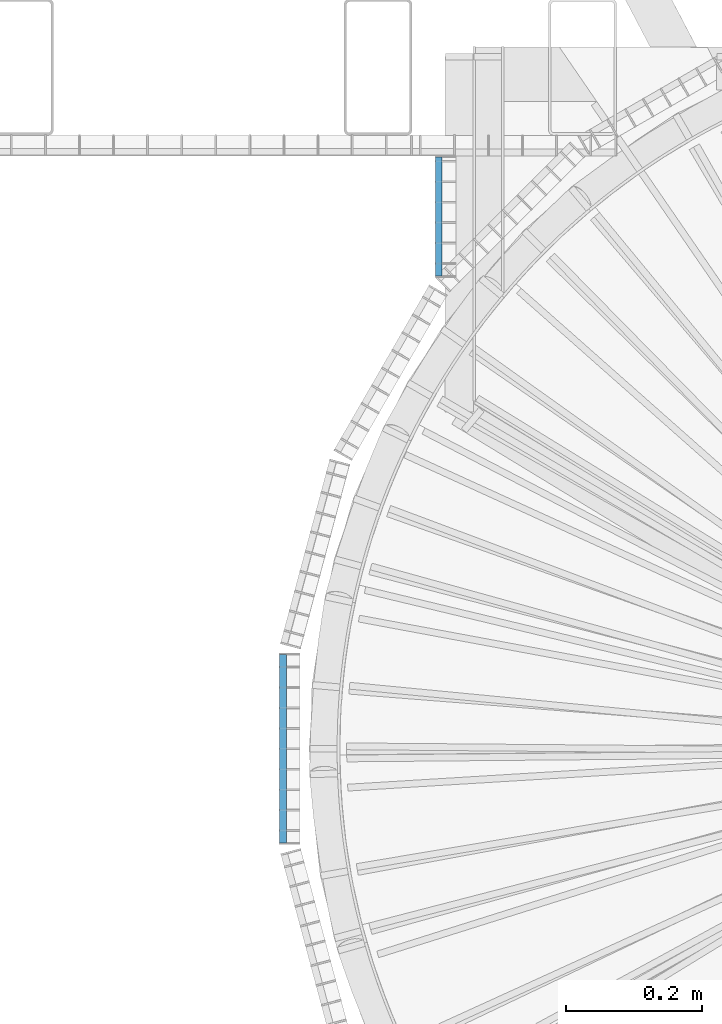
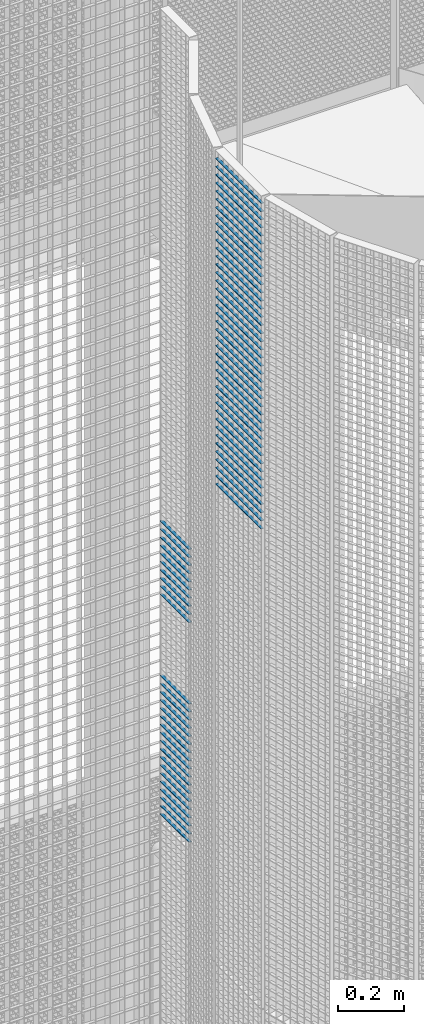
# One storey, part 182 of 1148: 69 beams, 2 elements without a shape of their own.
"""IFC2X3 building model written with IfcOpenShell, lengths in millimetres."""

from ifc_helpers import new_model, si_unit, frame, origin_with_axes, origin_2d_with_axis, place, context, subcontext, project, spatial, rectangle, extrude, material, type_object, element, aggregate, save


model = new_model("IFC2X3")

# Units and contexts
model_context = context("Model", 3, precision=1e-05, world=origin_with_axes())
body_context = subcontext(model_context, "Body", "Model", "MODEL_VIEW")
ifc_project = project(units=[si_unit("LENGTHUNIT", "METRE", prefix="MILLI"), si_unit("AREAUNIT", "SQUARE_METRE"), si_unit("VOLUMEUNIT", "CUBIC_METRE"), si_unit("MASSUNIT", "GRAM", prefix="KILO"), si_unit("TIMEUNIT", "SECOND"), si_unit("PLANEANGLEUNIT", "RADIAN"), si_unit("SOLIDANGLEUNIT", "STERADIAN"), si_unit("THERMODYNAMICTEMPERATUREUNIT", "DEGREE_CELSIUS"), si_unit("LUMINOUSINTENSITYUNIT", "LUMEN")], contexts=[model_context])

# Site, building, storey
site_placement = place(None, origin_with_axes())
site = spatial("IfcSite", under=ifc_project, at=site_placement, Name="Undefined", CompositionType="ELEMENT")
building_placement = place(site_placement, origin_with_axes())
building = spatial("IfcBuilding", under=site, at=building_placement, Name="Undefined", CompositionType="ELEMENT")
storey_placement = place(building_placement, origin_with_axes())
storey = spatial("IfcBuildingStorey", under=building, at=storey_placement, Name="Undefined", CompositionType="ELEMENT", Elevation=0.0)

# Assembly, beams
assembly_1_placement = place(storey_placement, origin_with_axes())
assembly_1 = element("IfcElementAssembly", 1, at=assembly_1_placement, inside=storey, Name="BORDURE", AssemblyPlace="NOTDEFINED", PredefinedType="NOTDEFINED")
ifc_material = material(Name="STEEL/S235JR")
beam_type = type_object("IfcBeamType", Name="PL2*10", PredefinedType="NOTDEFINED")
beam_1_placement = place(assembly_1_placement, frame((-884.882567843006, 867.997017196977, 15540.0), z_axis=(-1.0, 0.0, 0.0), x_axis=(0.0, -1.0, 0.0)))
beam_1 = element("IfcBeam", 2, at=beam_1_placement, type_object=beam_type, material=ifc_material, Name="ENTRETOISE", context=body_context, shape_type="SweptSolid", body=[
    extrude(rectangle(XDim=2.0, YDim=10.0, at=origin_2d_with_axis()), frame((174.109999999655, 0.0, 0.0), z_axis=(-1.0, 0.0, 0.0), x_axis=(0.0, -1.0, 0.0)), (0.0, 0.0, 1.0), 174.11),
])
beam_2_placement = place(assembly_1_placement, frame((-884.882567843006, 867.997017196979, 15840.0), z_axis=(-1.0, 0.0, 0.0), x_axis=(0.0, -1.0, 0.0)))
beam_2 = element("IfcBeam", 3, at=beam_2_placement, type_object=beam_type, material=ifc_material, Name="ENTRETOISE", context=body_context, shape_type="SweptSolid", body=[
    extrude(rectangle(XDim=2.0, YDim=10.0, at=origin_2d_with_axis()), frame((174.109999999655, 0.0, 0.0), z_axis=(-1.0, 0.0, 0.0), x_axis=(0.0, -1.0, 0.0)), (0.0, 0.0, 1.0), 174.11),
])
beam_3_placement = place(assembly_1_placement, frame((-884.882567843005, 867.997017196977, 15510.0), z_axis=(-1.0, 0.0, 0.0), x_axis=(0.0, -1.0, 0.0)))
beam_3 = element("IfcBeam", 4, at=beam_3_placement, type_object=beam_type, material=ifc_material, Name="ENTRETOISE", context=body_context, shape_type="SweptSolid", body=[
    extrude(rectangle(XDim=2.0, YDim=10.0, at=origin_2d_with_axis()), frame((174.109999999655, 0.0, 0.0), z_axis=(-1.0, 0.0, 0.0), x_axis=(0.0, -1.0, 0.0)), (0.0, 0.0, 1.0), 174.11),
])
beam_4_placement = place(assembly_1_placement, frame((-884.882567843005, 867.997017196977, 15480.0), z_axis=(-1.0, 0.0, 0.0), x_axis=(0.0, -1.0, 0.0)))
beam_4 = element("IfcBeam", 5, at=beam_4_placement, type_object=beam_type, material=ifc_material, Name="ENTRETOISE", context=body_context, shape_type="SweptSolid", body=[
    extrude(rectangle(XDim=2.0, YDim=10.0, at=origin_2d_with_axis()), frame((174.109999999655, 0.0, 0.0), z_axis=(-1.0, 0.0, 0.0), x_axis=(0.0, -1.0, 0.0)), (0.0, 0.0, 1.0), 174.11),
])
beam_5_placement = place(assembly_1_placement, frame((-884.882567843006, 867.997017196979, 15870.0), z_axis=(-1.0, 0.0, 0.0), x_axis=(0.0, -1.0, 0.0)))
beam_5 = element("IfcBeam", 6, at=beam_5_placement, type_object=beam_type, material=ifc_material, Name="ENTRETOISE", context=body_context, shape_type="SweptSolid", body=[
    extrude(rectangle(XDim=2.0, YDim=10.0, at=origin_2d_with_axis()), frame((174.109999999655, 0.0, 0.0), z_axis=(-1.0, 0.0, 0.0), x_axis=(0.0, -1.0, 0.0)), (0.0, 0.0, 1.0), 174.11),
])
beam_6_placement = place(assembly_1_placement, frame((-884.882567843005, 867.997017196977, 15450.0), z_axis=(-1.0, 0.0, 0.0), x_axis=(0.0, -1.0, 0.0)))
beam_6 = element("IfcBeam", 7, at=beam_6_placement, type_object=beam_type, material=ifc_material, Name="ENTRETOISE", context=body_context, shape_type="SweptSolid", body=[
    extrude(rectangle(XDim=2.0, YDim=10.0, at=origin_2d_with_axis()), frame((174.109999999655, 0.0, 0.0), z_axis=(-1.0, 0.0, 0.0), x_axis=(0.0, -1.0, 0.0)), (0.0, 0.0, 1.0), 174.11),
])
beam_7_placement = place(assembly_1_placement, frame((-884.882567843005, 867.997017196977, 15420.0), z_axis=(-1.0, 0.0, 0.0), x_axis=(0.0, -1.0, 0.0)))
beam_7 = element("IfcBeam", 8, at=beam_7_placement, type_object=beam_type, material=ifc_material, Name="ENTRETOISE", context=body_context, shape_type="SweptSolid", body=[
    extrude(rectangle(XDim=2.0, YDim=10.0, at=origin_2d_with_axis()), frame((174.109999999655, 0.0, 0.0), z_axis=(-1.0, 0.0, 0.0), x_axis=(0.0, -1.0, 0.0)), (0.0, 0.0, 1.0), 174.11),
])
beam_8_placement = place(assembly_1_placement, frame((-884.882567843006, 867.997017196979, 15900.0), z_axis=(-1.0, 0.0, 0.0), x_axis=(0.0, -1.0, 0.0)))
beam_8 = element("IfcBeam", 9, at=beam_8_placement, type_object=beam_type, material=ifc_material, Name="ENTRETOISE", context=body_context, shape_type="SweptSolid", body=[
    extrude(rectangle(XDim=2.0, YDim=10.0, at=origin_2d_with_axis()), frame((174.109999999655, 0.0, 0.0), z_axis=(-1.0, 0.0, 0.0), x_axis=(0.0, -1.0, 0.0)), (0.0, 0.0, 1.0), 174.11),
])
beam_9_placement = place(assembly_1_placement, frame((-884.882567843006, 867.997017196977, 15390.0), z_axis=(-1.0, 0.0, 0.0), x_axis=(0.0, -1.0, 0.0)))
beam_9 = element("IfcBeam", 10, at=beam_9_placement, type_object=beam_type, material=ifc_material, Name="ENTRETOISE", context=body_context, shape_type="SweptSolid", body=[
    extrude(rectangle(XDim=2.0, YDim=10.0, at=origin_2d_with_axis()), frame((174.109999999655, 0.0, 0.0), z_axis=(-1.0, 0.0, 0.0), x_axis=(0.0, -1.0, 0.0)), (0.0, 0.0, 1.0), 174.11),
])
beam_10_placement = place(assembly_1_placement, frame((-884.882567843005, 867.997017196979, 15930.0), z_axis=(-1.0, 0.0, 0.0), x_axis=(0.0, -1.0, 0.0)))
beam_10 = element("IfcBeam", 11, at=beam_10_placement, type_object=beam_type, material=ifc_material, Name="ENTRETOISE", context=body_context, shape_type="SweptSolid", body=[
    extrude(rectangle(XDim=2.0, YDim=10.0, at=origin_2d_with_axis()), frame((174.109999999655, 0.0, 0.0), z_axis=(-1.0, 0.0, 0.0), x_axis=(0.0, -1.0, 0.0)), (0.0, 0.0, 1.0), 174.11),
])
beam_11_placement = place(assembly_1_placement, frame((-884.882567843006, 867.997017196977, 15360.0), z_axis=(-1.0, 0.0, 0.0), x_axis=(0.0, -1.0, 0.0)))
beam_11 = element("IfcBeam", 12, at=beam_11_placement, type_object=beam_type, material=ifc_material, Name="ENTRETOISE", context=body_context, shape_type="SweptSolid", body=[
    extrude(rectangle(XDim=2.0, YDim=10.0, at=origin_2d_with_axis()), frame((174.109999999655, 0.0, 0.0), z_axis=(-1.0, 0.0, 0.0), x_axis=(0.0, -1.0, 0.0)), (0.0, 0.0, 1.0), 174.11),
])
beam_12_placement = place(assembly_1_placement, frame((-884.882567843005, 867.997017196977, 15330.0), z_axis=(-1.0, 0.0, 0.0), x_axis=(0.0, -1.0, 0.0)))
beam_12 = element("IfcBeam", 13, at=beam_12_placement, type_object=beam_type, material=ifc_material, Name="ENTRETOISE", context=body_context, shape_type="SweptSolid", body=[
    extrude(rectangle(XDim=2.0, YDim=10.0, at=origin_2d_with_axis()), frame((174.109999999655, 0.0, 0.0), z_axis=(-1.0, 0.0, 0.0), x_axis=(0.0, -1.0, 0.0)), (0.0, 0.0, 1.0), 174.11),
])
beam_13_placement = place(assembly_1_placement, frame((-884.882567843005, 867.997017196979, 15960.0), z_axis=(-1.0, 0.0, 0.0), x_axis=(0.0, -1.0, 0.0)))
beam_13 = element("IfcBeam", 14, at=beam_13_placement, type_object=beam_type, material=ifc_material, Name="ENTRETOISE", context=body_context, shape_type="SweptSolid", body=[
    extrude(rectangle(XDim=2.0, YDim=10.0, at=origin_2d_with_axis()), frame((174.109999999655, 0.0, 0.0), z_axis=(-1.0, 0.0, 0.0), x_axis=(0.0, -1.0, 0.0)), (0.0, 0.0, 1.0), 174.11),
])
beam_14_placement = place(assembly_1_placement, frame((-884.882567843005, 867.997017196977, 15300.0), z_axis=(-1.0, 0.0, 0.0), x_axis=(0.0, -1.0, 0.0)))
beam_14 = element("IfcBeam", 15, at=beam_14_placement, type_object=beam_type, material=ifc_material, Name="ENTRETOISE", context=body_context, shape_type="SweptSolid", body=[
    extrude(rectangle(XDim=2.0, YDim=10.0, at=origin_2d_with_axis()), frame((174.109999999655, 0.0, 0.0), z_axis=(-1.0, 0.0, 0.0), x_axis=(0.0, -1.0, 0.0)), (0.0, 0.0, 1.0), 174.11),
])
beam_15_placement = place(assembly_1_placement, frame((-884.882567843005, 867.997017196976, 15270.0), z_axis=(-1.0, 0.0, 0.0), x_axis=(0.0, -1.0, 0.0)))
beam_15 = element("IfcBeam", 16, at=beam_15_placement, type_object=beam_type, material=ifc_material, Name="ENTRETOISE", context=body_context, shape_type="SweptSolid", body=[
    extrude(rectangle(XDim=2.0, YDim=10.0, at=origin_2d_with_axis()), frame((174.109999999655, 0.0, 0.0), z_axis=(-1.0, 0.0, 0.0), x_axis=(0.0, -1.0, 0.0)), (0.0, 0.0, 1.0), 174.11),
])
beam_16_placement = place(assembly_1_placement, frame((-884.882567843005, 867.997017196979, 15990.0), z_axis=(-1.0, 0.0, 0.0), x_axis=(0.0, -1.0, 0.0)))
beam_16 = element("IfcBeam", 17, at=beam_16_placement, type_object=beam_type, material=ifc_material, Name="ENTRETOISE", context=body_context, shape_type="SweptSolid", body=[
    extrude(rectangle(XDim=2.0, YDim=10.0, at=origin_2d_with_axis()), frame((174.109999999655, 0.0, 0.0), z_axis=(-1.0, 0.0, 0.0), x_axis=(0.0, -1.0, 0.0)), (0.0, 0.0, 1.0), 174.11),
])
beam_17_placement = place(assembly_1_placement, frame((-884.882567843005, 867.997017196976, 15240.0), z_axis=(-1.0, 0.0, 0.0), x_axis=(0.0, -1.0, 0.0)))
beam_17 = element("IfcBeam", 18, at=beam_17_placement, type_object=beam_type, material=ifc_material, Name="ENTRETOISE", context=body_context, shape_type="SweptSolid", body=[
    extrude(rectangle(XDim=2.0, YDim=10.0, at=origin_2d_with_axis()), frame((174.109999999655, 0.0, 0.0), z_axis=(-1.0, 0.0, 0.0), x_axis=(0.0, -1.0, 0.0)), (0.0, 0.0, 1.0), 174.11),
])
beam_18_placement = place(assembly_1_placement, frame((-884.882567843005, 867.997017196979, 16020.0), z_axis=(-1.0, 0.0, 0.0), x_axis=(0.0, -1.0, 0.0)))
beam_18 = element("IfcBeam", 19, at=beam_18_placement, type_object=beam_type, material=ifc_material, Name="ENTRETOISE", context=body_context, shape_type="SweptSolid", body=[
    extrude(rectangle(XDim=2.0, YDim=10.0, at=origin_2d_with_axis()), frame((174.109999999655, 0.0, 0.0), z_axis=(-1.0, 0.0, 0.0), x_axis=(0.0, -1.0, 0.0)), (0.0, 0.0, 1.0), 174.11),
])
beam_19_placement = place(assembly_1_placement, frame((-884.882567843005, 867.997017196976, 15210.0), z_axis=(-1.0, 0.0, 0.0), x_axis=(0.0, -1.0, 0.0)))
beam_19 = element("IfcBeam", 20, at=beam_19_placement, type_object=beam_type, material=ifc_material, Name="ENTRETOISE", context=body_context, shape_type="SweptSolid", body=[
    extrude(rectangle(XDim=2.0, YDim=10.0, at=origin_2d_with_axis()), frame((174.109999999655, 0.0, 0.0), z_axis=(-1.0, 0.0, 0.0), x_axis=(0.0, -1.0, 0.0)), (0.0, 0.0, 1.0), 174.11),
])
beam_20_placement = place(assembly_1_placement, frame((-884.882567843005, 867.997017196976, 15180.0), z_axis=(-1.0, 0.0, 0.0), x_axis=(0.0, -1.0, 0.0)))
beam_20 = element("IfcBeam", 21, at=beam_20_placement, type_object=beam_type, material=ifc_material, Name="ENTRETOISE", context=body_context, shape_type="SweptSolid", body=[
    extrude(rectangle(XDim=2.0, YDim=10.0, at=origin_2d_with_axis()), frame((174.109999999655, 0.0, 0.0), z_axis=(-1.0, 0.0, 0.0), x_axis=(0.0, -1.0, 0.0)), (0.0, 0.0, 1.0), 174.11),
])
beam_21_placement = place(assembly_1_placement, frame((-884.882567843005, 867.997017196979, 16050.0), z_axis=(-1.0, 0.0, 0.0), x_axis=(0.0, -1.0, 0.0)))
beam_21 = element("IfcBeam", 22, at=beam_21_placement, type_object=beam_type, material=ifc_material, Name="ENTRETOISE", context=body_context, shape_type="SweptSolid", body=[
    extrude(rectangle(XDim=2.0, YDim=10.0, at=origin_2d_with_axis()), frame((174.109999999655, 0.0, 0.0), z_axis=(-1.0, 0.0, 0.0), x_axis=(0.0, -1.0, 0.0)), (0.0, 0.0, 1.0), 174.11),
])
beam_22_placement = place(assembly_1_placement, frame((-884.882567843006, 867.997017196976, 15150.0), z_axis=(-1.0, 0.0, 0.0), x_axis=(0.0, -1.0, 0.0)))
beam_22 = element("IfcBeam", 23, at=beam_22_placement, type_object=beam_type, material=ifc_material, Name="ENTRETOISE", context=body_context, shape_type="SweptSolid", body=[
    extrude(rectangle(XDim=2.0, YDim=10.0, at=origin_2d_with_axis()), frame((174.109999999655, 0.0, 0.0), z_axis=(-1.0, 0.0, 0.0), x_axis=(0.0, -1.0, 0.0)), (0.0, 0.0, 1.0), 174.11),
])
beam_23_placement = place(assembly_1_placement, frame((-884.882567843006, 867.997017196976, 15120.0), z_axis=(-1.0, 0.0, 0.0), x_axis=(0.0, -1.0, 0.0)))
beam_23 = element("IfcBeam", 24, at=beam_23_placement, type_object=beam_type, material=ifc_material, Name="ENTRETOISE", context=body_context, shape_type="SweptSolid", body=[
    extrude(rectangle(XDim=2.0, YDim=10.0, at=origin_2d_with_axis()), frame((174.109999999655, 0.0, 0.0), z_axis=(-1.0, 0.0, 0.0), x_axis=(0.0, -1.0, 0.0)), (0.0, 0.0, 1.0), 174.11),
])
beam_24_placement = place(assembly_1_placement, frame((-884.882567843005, 867.997017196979, 16080.0), z_axis=(-1.0, 0.0, 0.0), x_axis=(0.0, -1.0, 0.0)))
beam_24 = element("IfcBeam", 25, at=beam_24_placement, type_object=beam_type, material=ifc_material, Name="ENTRETOISE", context=body_context, shape_type="SweptSolid", body=[
    extrude(rectangle(XDim=2.0, YDim=10.0, at=origin_2d_with_axis()), frame((174.109999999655, 0.0, 0.0), z_axis=(-1.0, 0.0, 0.0), x_axis=(0.0, -1.0, 0.0)), (0.0, 0.0, 1.0), 174.11),
])
beam_25_placement = place(assembly_1_placement, frame((-884.882567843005, 867.997017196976, 15090.0), z_axis=(-1.0, 0.0, 0.0), x_axis=(0.0, -1.0, 0.0)))
beam_25 = element("IfcBeam", 26, at=beam_25_placement, type_object=beam_type, material=ifc_material, Name="ENTRETOISE", context=body_context, shape_type="SweptSolid", body=[
    extrude(rectangle(XDim=2.0, YDim=10.0, at=origin_2d_with_axis()), frame((174.109999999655, 0.0, 0.0), z_axis=(-1.0, 0.0, 0.0), x_axis=(0.0, -1.0, 0.0)), (0.0, 0.0, 1.0), 174.11),
])
beam_26_placement = place(assembly_1_placement, frame((-884.882567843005, 867.997017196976, 15060.0), z_axis=(-1.0, 0.0, 0.0), x_axis=(0.0, -1.0, 0.0)))
beam_26 = element("IfcBeam", 27, at=beam_26_placement, type_object=beam_type, material=ifc_material, Name="ENTRETOISE", context=body_context, shape_type="SweptSolid", body=[
    extrude(rectangle(XDim=2.0, YDim=10.0, at=origin_2d_with_axis()), frame((174.109999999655, 0.0, 0.0), z_axis=(-1.0, 0.0, 0.0), x_axis=(0.0, -1.0, 0.0)), (0.0, 0.0, 1.0), 174.11),
])
beam_27_placement = place(assembly_1_placement, frame((-884.882567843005, 867.99701719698, 16110.0), z_axis=(-1.0, 0.0, 0.0), x_axis=(0.0, -1.0, 0.0)))
beam_27 = element("IfcBeam", 28, at=beam_27_placement, type_object=beam_type, material=ifc_material, Name="ENTRETOISE", context=body_context, shape_type="SweptSolid", body=[
    extrude(rectangle(XDim=2.0, YDim=10.0, at=origin_2d_with_axis()), frame((174.109999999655, 0.0, 0.0), z_axis=(-1.0, 0.0, 0.0), x_axis=(0.0, -1.0, 0.0)), (0.0, 0.0, 1.0), 174.11),
])
beam_28_placement = place(assembly_1_placement, frame((-884.882567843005, 867.997017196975, 15030.0), z_axis=(-1.0, 0.0, 0.0), x_axis=(0.0, -1.0, 0.0)))
beam_28 = element("IfcBeam", 29, at=beam_28_placement, type_object=beam_type, material=ifc_material, Name="ENTRETOISE", context=body_context, shape_type="SweptSolid", body=[
    extrude(rectangle(XDim=2.0, YDim=10.0, at=origin_2d_with_axis()), frame((174.109999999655, 0.0, 0.0), z_axis=(-1.0, 0.0, 0.0), x_axis=(0.0, -1.0, 0.0)), (0.0, 0.0, 1.0), 174.11),
])
aggregate(assembly_1, [beam_1, beam_2, beam_3, beam_4, beam_5, beam_6, beam_7, beam_8, beam_9, beam_10, beam_11, beam_12, beam_13, beam_14, beam_15, beam_16, beam_17, beam_18, beam_19, beam_20, beam_21, beam_22, beam_23, beam_24, beam_25, beam_26, beam_27, beam_28])

assembly_2_placement = place(storey_placement, origin_with_axes())
assembly_2 = element("IfcElementAssembly", 30, at=assembly_2_placement, inside=storey, Name="BORDURE", AssemblyPlace="NOTDEFINED", PredefinedType="NOTDEFINED")
beam_29_placement = place(assembly_2_placement, frame((-1113.47999999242, 137.996003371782, 17970.0), z_axis=(-1.0, 0.0, 0.0), x_axis=(0.0, -1.0, 0.0)))
beam_29 = element("IfcBeam", 31, at=beam_29_placement, type_object=beam_type, material=ifc_material, Name="ENTRETOISE", context=body_context, shape_type="SweptSolid", body=[
    extrude(rectangle(XDim=2.0, YDim=10.0, at=origin_2d_with_axis()), frame((275.999999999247, 9.09494701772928e-13, 1.53210777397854e-14), z_axis=(-1.0, 0.0, 0.0), x_axis=(0.0, -1.0, 0.0)), (0.0, 0.0, 1.0), 276.0),
])
beam_30_placement = place(assembly_2_placement, frame((-1113.47999999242, 137.996003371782, 17940.0), z_axis=(-1.0, 0.0, 0.0), x_axis=(0.0, -1.0, 0.0)))
beam_30 = element("IfcBeam", 32, at=beam_30_placement, type_object=beam_type, material=ifc_material, Name="ENTRETOISE", context=body_context, shape_type="SweptSolid", body=[
    extrude(rectangle(XDim=2.0, YDim=10.0, at=origin_2d_with_axis()), frame((275.999999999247, 9.09494701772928e-13, 1.53210777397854e-14), z_axis=(-1.0, 0.0, 0.0), x_axis=(0.0, -1.0, 0.0)), (0.0, 0.0, 1.0), 276.0),
])
beam_31_placement = place(assembly_2_placement, frame((-1113.47999999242, 137.996003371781, 17910.0), z_axis=(-1.0, 0.0, 0.0), x_axis=(0.0, -1.0, 0.0)))
beam_31 = element("IfcBeam", 33, at=beam_31_placement, type_object=beam_type, material=ifc_material, Name="ENTRETOISE", context=body_context, shape_type="SweptSolid", body=[
    extrude(rectangle(XDim=2.0, YDim=10.0, at=origin_2d_with_axis()), frame((275.999999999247, 9.09494701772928e-13, 1.53210777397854e-14), z_axis=(-1.0, 0.0, 0.0), x_axis=(0.0, -1.0, 0.0)), (0.0, 0.0, 1.0), 276.0),
])
beam_32_placement = place(assembly_2_placement, frame((-1113.47999999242, 137.996003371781, 17880.0), z_axis=(-1.0, 0.0, 0.0), x_axis=(0.0, -1.0, 0.0)))
beam_32 = element("IfcBeam", 34, at=beam_32_placement, type_object=beam_type, material=ifc_material, Name="ENTRETOISE", context=body_context, shape_type="SweptSolid", body=[
    extrude(rectangle(XDim=2.0, YDim=10.0, at=origin_2d_with_axis()), frame((275.999999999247, 9.09494701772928e-13, 1.53210777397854e-14), z_axis=(-1.0, 0.0, 0.0), x_axis=(0.0, -1.0, 0.0)), (0.0, 0.0, 1.0), 276.0),
])
beam_33_placement = place(assembly_2_placement, frame((-1113.47999999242, 137.996003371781, 17850.0), z_axis=(-1.0, 0.0, 0.0), x_axis=(0.0, -1.0, 0.0)))
beam_33 = element("IfcBeam", 35, at=beam_33_placement, type_object=beam_type, material=ifc_material, Name="ENTRETOISE", context=body_context, shape_type="SweptSolid", body=[
    extrude(rectangle(XDim=2.0, YDim=10.0, at=origin_2d_with_axis()), frame((275.999999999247, 9.09494701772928e-13, 1.53210777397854e-14), z_axis=(-1.0, 0.0, 0.0), x_axis=(0.0, -1.0, 0.0)), (0.0, 0.0, 1.0), 276.0),
])
beam_34_placement = place(assembly_2_placement, frame((-1113.47999999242, 137.996003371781, 17820.0), z_axis=(-1.0, 0.0, 0.0), x_axis=(0.0, -1.0, 0.0)))
beam_34 = element("IfcBeam", 36, at=beam_34_placement, type_object=beam_type, material=ifc_material, Name="ENTRETOISE", context=body_context, shape_type="SweptSolid", body=[
    extrude(rectangle(XDim=2.0, YDim=10.0, at=origin_2d_with_axis()), frame((275.999999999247, 9.09494701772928e-13, 1.53210777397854e-14), z_axis=(-1.0, 0.0, 0.0), x_axis=(0.0, -1.0, 0.0)), (0.0, 0.0, 1.0), 276.0),
])
beam_35_placement = place(assembly_2_placement, frame((-1113.47999999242, 137.996003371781, 17790.0), z_axis=(-1.0, 0.0, 0.0), x_axis=(0.0, -1.0, 0.0)))
beam_35 = element("IfcBeam", 37, at=beam_35_placement, type_object=beam_type, material=ifc_material, Name="ENTRETOISE", context=body_context, shape_type="SweptSolid", body=[
    extrude(rectangle(XDim=2.0, YDim=10.0, at=origin_2d_with_axis()), frame((275.999999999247, 9.09494701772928e-13, 1.53210777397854e-14), z_axis=(-1.0, 0.0, 0.0), x_axis=(0.0, -1.0, 0.0)), (0.0, 0.0, 1.0), 276.0),
])
beam_36_placement = place(assembly_2_placement, frame((-1113.47999999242, 137.996003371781, 17760.0), z_axis=(-1.0, 0.0, 0.0), x_axis=(0.0, -1.0, 0.0)))
beam_36 = element("IfcBeam", 38, at=beam_36_placement, type_object=beam_type, material=ifc_material, Name="ENTRETOISE", context=body_context, shape_type="SweptSolid", body=[
    extrude(rectangle(XDim=2.0, YDim=10.0, at=origin_2d_with_axis()), frame((275.999999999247, 9.09494701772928e-13, 1.53210777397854e-14), z_axis=(-1.0, 0.0, 0.0), x_axis=(0.0, -1.0, 0.0)), (0.0, 0.0, 1.0), 276.0),
])
beam_37_placement = place(assembly_2_placement, frame((-1113.47999999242, 137.996003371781, 17730.0), z_axis=(-1.0, 0.0, 0.0), x_axis=(0.0, -1.0, 0.0)))
beam_37 = element("IfcBeam", 39, at=beam_37_placement, type_object=beam_type, material=ifc_material, Name="ENTRETOISE", context=body_context, shape_type="SweptSolid", body=[
    extrude(rectangle(XDim=2.0, YDim=10.0, at=origin_2d_with_axis()), frame((275.999999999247, 9.09494701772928e-13, 1.53210777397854e-14), z_axis=(-1.0, 0.0, 0.0), x_axis=(0.0, -1.0, 0.0)), (0.0, 0.0, 1.0), 276.0),
])
beam_38_placement = place(assembly_2_placement, frame((-1113.47999999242, 137.996003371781, 17700.0), z_axis=(-1.0, 0.0, 0.0), x_axis=(0.0, -1.0, 0.0)))
beam_38 = element("IfcBeam", 40, at=beam_38_placement, type_object=beam_type, material=ifc_material, Name="ENTRETOISE", context=body_context, shape_type="SweptSolid", body=[
    extrude(rectangle(XDim=2.0, YDim=10.0, at=origin_2d_with_axis()), frame((275.999999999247, 9.09494701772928e-13, 1.53210777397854e-14), z_axis=(-1.0, 0.0, 0.0), x_axis=(0.0, -1.0, 0.0)), (0.0, 0.0, 1.0), 276.0),
])
beam_39_placement = place(assembly_2_placement, frame((-1113.47999999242, 137.996003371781, 17670.0), z_axis=(-1.0, 0.0, 0.0), x_axis=(0.0, -1.0, 0.0)))
beam_39 = element("IfcBeam", 41, at=beam_39_placement, type_object=beam_type, material=ifc_material, Name="ENTRETOISE", context=body_context, shape_type="SweptSolid", body=[
    extrude(rectangle(XDim=2.0, YDim=10.0, at=origin_2d_with_axis()), frame((275.999999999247, 9.09494701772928e-13, 1.53210777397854e-14), z_axis=(-1.0, 0.0, 0.0), x_axis=(0.0, -1.0, 0.0)), (0.0, 0.0, 1.0), 276.0),
])
beam_40_placement = place(assembly_2_placement, frame((-1113.47999999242, 137.99600337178, 17640.0), z_axis=(-1.0, 0.0, 0.0), x_axis=(0.0, -1.0, 0.0)))
beam_40 = element("IfcBeam", 42, at=beam_40_placement, type_object=beam_type, material=ifc_material, Name="ENTRETOISE", context=body_context, shape_type="SweptSolid", body=[
    extrude(rectangle(XDim=2.0, YDim=10.0, at=origin_2d_with_axis()), frame((275.999999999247, 9.09494701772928e-13, 1.53210777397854e-14), z_axis=(-1.0, 0.0, 0.0), x_axis=(0.0, -1.0, 0.0)), (0.0, 0.0, 1.0), 276.0),
])
beam_41_placement = place(assembly_2_placement, frame((-1113.47999999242, 137.99600337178, 17610.0), z_axis=(-1.0, 0.0, 0.0), x_axis=(0.0, -1.0, 0.0)))
beam_41 = element("IfcBeam", 43, at=beam_41_placement, type_object=beam_type, material=ifc_material, Name="ENTRETOISE", context=body_context, shape_type="SweptSolid", body=[
    extrude(rectangle(XDim=2.0, YDim=10.0, at=origin_2d_with_axis()), frame((275.999999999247, 9.09494701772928e-13, 1.53210777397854e-14), z_axis=(-1.0, 0.0, 0.0), x_axis=(0.0, -1.0, 0.0)), (0.0, 0.0, 1.0), 276.0),
])
beam_42_placement = place(assembly_2_placement, frame((-1113.47999999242, 137.99600337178, 17580.0), z_axis=(-1.0, 0.0, 0.0), x_axis=(0.0, -1.0, 0.0)))
beam_42 = element("IfcBeam", 44, at=beam_42_placement, type_object=beam_type, material=ifc_material, Name="ENTRETOISE", context=body_context, shape_type="SweptSolid", body=[
    extrude(rectangle(XDim=2.0, YDim=10.0, at=origin_2d_with_axis()), frame((275.999999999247, 9.09494701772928e-13, 1.53210777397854e-14), z_axis=(-1.0, 0.0, 0.0), x_axis=(0.0, -1.0, 0.0)), (0.0, 0.0, 1.0), 276.0),
])
beam_43_placement = place(assembly_2_placement, frame((-1113.47999999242, 137.99600337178, 17550.0), z_axis=(-1.0, 0.0, 0.0), x_axis=(0.0, -1.0, 0.0)))
beam_43 = element("IfcBeam", 45, at=beam_43_placement, type_object=beam_type, material=ifc_material, Name="ENTRETOISE", context=body_context, shape_type="SweptSolid", body=[
    extrude(rectangle(XDim=2.0, YDim=10.0, at=origin_2d_with_axis()), frame((275.999999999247, 9.09494701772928e-13, 1.53210777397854e-14), z_axis=(-1.0, 0.0, 0.0), x_axis=(0.0, -1.0, 0.0)), (0.0, 0.0, 1.0), 276.0),
])
beam_44_placement = place(assembly_2_placement, frame((-1113.47999999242, 137.99600337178, 17520.0), z_axis=(-1.0, 0.0, 0.0), x_axis=(0.0, -1.0, 0.0)))
beam_44 = element("IfcBeam", 46, at=beam_44_placement, type_object=beam_type, material=ifc_material, Name="ENTRETOISE", context=body_context, shape_type="SweptSolid", body=[
    extrude(rectangle(XDim=2.0, YDim=10.0, at=origin_2d_with_axis()), frame((275.999999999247, 9.09494701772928e-13, 1.53210777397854e-14), z_axis=(-1.0, 0.0, 0.0), x_axis=(0.0, -1.0, 0.0)), (0.0, 0.0, 1.0), 276.0),
])
beam_45_placement = place(assembly_2_placement, frame((-1113.47999999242, 137.99600337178, 17490.0), z_axis=(-1.0, 0.0, 0.0), x_axis=(0.0, -1.0, 0.0)))
beam_45 = element("IfcBeam", 47, at=beam_45_placement, type_object=beam_type, material=ifc_material, Name="ENTRETOISE", context=body_context, shape_type="SweptSolid", body=[
    extrude(rectangle(XDim=2.0, YDim=10.0, at=origin_2d_with_axis()), frame((275.999999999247, 9.09494701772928e-13, 1.53210777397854e-14), z_axis=(-1.0, 0.0, 0.0), x_axis=(0.0, -1.0, 0.0)), (0.0, 0.0, 1.0), 276.0),
])
beam_46_placement = place(assembly_2_placement, frame((-1113.47999999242, 137.99600337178, 17460.0), z_axis=(-1.0, 0.0, 0.0), x_axis=(0.0, -1.0, 0.0)))
beam_46 = element("IfcBeam", 48, at=beam_46_placement, type_object=beam_type, material=ifc_material, Name="ENTRETOISE", context=body_context, shape_type="SweptSolid", body=[
    extrude(rectangle(XDim=2.0, YDim=10.0, at=origin_2d_with_axis()), frame((275.999999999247, 9.09494701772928e-13, 1.53210777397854e-14), z_axis=(-1.0, 0.0, 0.0), x_axis=(0.0, -1.0, 0.0)), (0.0, 0.0, 1.0), 276.0),
])
beam_47_placement = place(assembly_2_placement, frame((-1113.47999999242, 137.99600337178, 17430.0), z_axis=(-1.0, 0.0, 0.0), x_axis=(0.0, -1.0, 0.0)))
beam_47 = element("IfcBeam", 49, at=beam_47_placement, type_object=beam_type, material=ifc_material, Name="ENTRETOISE", context=body_context, shape_type="SweptSolid", body=[
    extrude(rectangle(XDim=2.0, YDim=10.0, at=origin_2d_with_axis()), frame((275.999999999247, 9.09494701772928e-13, 1.53210777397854e-14), z_axis=(-1.0, 0.0, 0.0), x_axis=(0.0, -1.0, 0.0)), (0.0, 0.0, 1.0), 276.0),
])
beam_48_placement = place(assembly_2_placement, frame((-1113.47999999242, 137.99600337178, 17400.0), z_axis=(-1.0, 0.0, 0.0), x_axis=(0.0, -1.0, 0.0)))
beam_48 = element("IfcBeam", 50, at=beam_48_placement, type_object=beam_type, material=ifc_material, Name="ENTRETOISE", context=body_context, shape_type="SweptSolid", body=[
    extrude(rectangle(XDim=2.0, YDim=10.0, at=origin_2d_with_axis()), frame((275.999999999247, 9.09494701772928e-13, 1.53210777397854e-14), z_axis=(-1.0, 0.0, 0.0), x_axis=(0.0, -1.0, 0.0)), (0.0, 0.0, 1.0), 276.0),
])
beam_49_placement = place(assembly_2_placement, frame((-1113.47999999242, 137.996003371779, 17370.0), z_axis=(-1.0, 0.0, 0.0), x_axis=(0.0, -1.0, 0.0)))
beam_49 = element("IfcBeam", 51, at=beam_49_placement, type_object=beam_type, material=ifc_material, Name="ENTRETOISE", context=body_context, shape_type="SweptSolid", body=[
    extrude(rectangle(XDim=2.0, YDim=10.0, at=origin_2d_with_axis()), frame((275.999999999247, 9.09494701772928e-13, 1.53210777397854e-14), z_axis=(-1.0, 0.0, 0.0), x_axis=(0.0, -1.0, 0.0)), (0.0, 0.0, 1.0), 276.0),
])
beam_50_placement = place(assembly_2_placement, frame((-1113.47999999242, 137.996003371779, 17340.0), z_axis=(-1.0, 0.0, 0.0), x_axis=(0.0, -1.0, 0.0)))
beam_50 = element("IfcBeam", 52, at=beam_50_placement, type_object=beam_type, material=ifc_material, Name="ENTRETOISE", context=body_context, shape_type="SweptSolid", body=[
    extrude(rectangle(XDim=2.0, YDim=10.0, at=origin_2d_with_axis()), frame((275.999999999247, 9.09494701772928e-13, 1.53210777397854e-14), z_axis=(-1.0, 0.0, 0.0), x_axis=(0.0, -1.0, 0.0)), (0.0, 0.0, 1.0), 276.0),
])
beam_51_placement = place(assembly_2_placement, frame((-1113.47999999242, 137.996003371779, 17310.0), z_axis=(-1.0, 0.0, 0.0), x_axis=(0.0, -1.0, 0.0)))
beam_51 = element("IfcBeam", 53, at=beam_51_placement, type_object=beam_type, material=ifc_material, Name="ENTRETOISE", context=body_context, shape_type="SweptSolid", body=[
    extrude(rectangle(XDim=2.0, YDim=10.0, at=origin_2d_with_axis()), frame((275.999999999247, 9.09494701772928e-13, 1.53210777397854e-14), z_axis=(-1.0, 0.0, 0.0), x_axis=(0.0, -1.0, 0.0)), (0.0, 0.0, 1.0), 276.0),
])
beam_52_placement = place(assembly_2_placement, frame((-1113.47999999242, 137.996003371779, 17280.0), z_axis=(-1.0, 0.0, 0.0), x_axis=(0.0, -1.0, 0.0)))
beam_52 = element("IfcBeam", 54, at=beam_52_placement, type_object=beam_type, material=ifc_material, Name="ENTRETOISE", context=body_context, shape_type="SweptSolid", body=[
    extrude(rectangle(XDim=2.0, YDim=10.0, at=origin_2d_with_axis()), frame((275.999999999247, 9.09494701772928e-13, 1.53210777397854e-14), z_axis=(-1.0, 0.0, 0.0), x_axis=(0.0, -1.0, 0.0)), (0.0, 0.0, 1.0), 276.0),
])
beam_53_placement = place(assembly_2_placement, frame((-1113.47999999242, 137.996003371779, 17250.0), z_axis=(-1.0, 0.0, 0.0), x_axis=(0.0, -1.0, 0.0)))
beam_53 = element("IfcBeam", 55, at=beam_53_placement, type_object=beam_type, material=ifc_material, Name="ENTRETOISE", context=body_context, shape_type="SweptSolid", body=[
    extrude(rectangle(XDim=2.0, YDim=10.0, at=origin_2d_with_axis()), frame((275.999999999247, 9.09494701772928e-13, 1.53210777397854e-14), z_axis=(-1.0, 0.0, 0.0), x_axis=(0.0, -1.0, 0.0)), (0.0, 0.0, 1.0), 276.0),
])
beam_54_placement = place(assembly_2_placement, frame((-1113.47999999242, 137.996003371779, 17220.0), z_axis=(-1.0, 0.0, 0.0), x_axis=(0.0, -1.0, 0.0)))
beam_54 = element("IfcBeam", 56, at=beam_54_placement, type_object=beam_type, material=ifc_material, Name="ENTRETOISE", context=body_context, shape_type="SweptSolid", body=[
    extrude(rectangle(XDim=2.0, YDim=10.0, at=origin_2d_with_axis()), frame((275.999999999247, 9.09494701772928e-13, 1.53210777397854e-14), z_axis=(-1.0, 0.0, 0.0), x_axis=(0.0, -1.0, 0.0)), (0.0, 0.0, 1.0), 276.0),
])
beam_55_placement = place(assembly_2_placement, frame((-1113.47999999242, 137.996003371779, 17190.0), z_axis=(-1.0, 0.0, 0.0), x_axis=(0.0, -1.0, 0.0)))
beam_55 = element("IfcBeam", 57, at=beam_55_placement, type_object=beam_type, material=ifc_material, Name="ENTRETOISE", context=body_context, shape_type="SweptSolid", body=[
    extrude(rectangle(XDim=2.0, YDim=10.0, at=origin_2d_with_axis()), frame((275.999999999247, 9.09494701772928e-13, 1.53210777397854e-14), z_axis=(-1.0, 0.0, 0.0), x_axis=(0.0, -1.0, 0.0)), (0.0, 0.0, 1.0), 276.0),
])
beam_56_placement = place(assembly_2_placement, frame((-1113.47999999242, 137.996003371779, 17160.0), z_axis=(-1.0, 0.0, 0.0), x_axis=(0.0, -1.0, 0.0)))
beam_56 = element("IfcBeam", 58, at=beam_56_placement, type_object=beam_type, material=ifc_material, Name="ENTRETOISE", context=body_context, shape_type="SweptSolid", body=[
    extrude(rectangle(XDim=2.0, YDim=10.0, at=origin_2d_with_axis()), frame((275.999999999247, 9.09494701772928e-13, 1.53210777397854e-14), z_axis=(-1.0, 0.0, 0.0), x_axis=(0.0, -1.0, 0.0)), (0.0, 0.0, 1.0), 276.0),
])
beam_57_placement = place(assembly_2_placement, frame((-1113.47999999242, 137.996003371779, 17130.0), z_axis=(-1.0, 0.0, 0.0), x_axis=(0.0, -1.0, 0.0)))
beam_57 = element("IfcBeam", 59, at=beam_57_placement, type_object=beam_type, material=ifc_material, Name="ENTRETOISE", context=body_context, shape_type="SweptSolid", body=[
    extrude(rectangle(XDim=2.0, YDim=10.0, at=origin_2d_with_axis()), frame((275.999999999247, 9.09494701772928e-13, 1.53210777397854e-14), z_axis=(-1.0, 0.0, 0.0), x_axis=(0.0, -1.0, 0.0)), (0.0, 0.0, 1.0), 276.0),
])
beam_58_placement = place(assembly_2_placement, frame((-1113.47999999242, 137.996003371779, 17100.0), z_axis=(-1.0, 0.0, 0.0), x_axis=(0.0, -1.0, 0.0)))
beam_58 = element("IfcBeam", 60, at=beam_58_placement, type_object=beam_type, material=ifc_material, Name="ENTRETOISE", context=body_context, shape_type="SweptSolid", body=[
    extrude(rectangle(XDim=2.0, YDim=10.0, at=origin_2d_with_axis()), frame((275.999999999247, 9.09494701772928e-13, 1.53210777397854e-14), z_axis=(-1.0, 0.0, 0.0), x_axis=(0.0, -1.0, 0.0)), (0.0, 0.0, 1.0), 276.0),
])
beam_59_placement = place(assembly_2_placement, frame((-1113.47999999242, 137.996003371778, 17070.0), z_axis=(-1.0, 0.0, 0.0), x_axis=(0.0, -1.0, 0.0)))
beam_59 = element("IfcBeam", 61, at=beam_59_placement, type_object=beam_type, material=ifc_material, Name="ENTRETOISE", context=body_context, shape_type="SweptSolid", body=[
    extrude(rectangle(XDim=2.0, YDim=10.0, at=origin_2d_with_axis()), frame((275.999999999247, 9.09494701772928e-13, 1.53210777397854e-14), z_axis=(-1.0, 0.0, 0.0), x_axis=(0.0, -1.0, 0.0)), (0.0, 0.0, 1.0), 276.0),
])
beam_60_placement = place(assembly_2_placement, frame((-1113.47999999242, 137.996003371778, 17040.0), z_axis=(-1.0, 0.0, 0.0), x_axis=(0.0, -1.0, 0.0)))
beam_60 = element("IfcBeam", 62, at=beam_60_placement, type_object=beam_type, material=ifc_material, Name="ENTRETOISE", context=body_context, shape_type="SweptSolid", body=[
    extrude(rectangle(XDim=2.0, YDim=10.0, at=origin_2d_with_axis()), frame((275.999999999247, 9.09494701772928e-13, 1.53210777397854e-14), z_axis=(-1.0, 0.0, 0.0), x_axis=(0.0, -1.0, 0.0)), (0.0, 0.0, 1.0), 276.0),
])
beam_61_placement = place(assembly_2_placement, frame((-1113.47999999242, 137.996003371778, 17010.0), z_axis=(-1.0, 0.0, 0.0), x_axis=(0.0, -1.0, 0.0)))
beam_61 = element("IfcBeam", 63, at=beam_61_placement, type_object=beam_type, material=ifc_material, Name="ENTRETOISE", context=body_context, shape_type="SweptSolid", body=[
    extrude(rectangle(XDim=2.0, YDim=10.0, at=origin_2d_with_axis()), frame((275.999999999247, 9.09494701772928e-13, 1.53210777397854e-14), z_axis=(-1.0, 0.0, 0.0), x_axis=(0.0, -1.0, 0.0)), (0.0, 0.0, 1.0), 276.0),
])
beam_62_placement = place(assembly_2_placement, frame((-1113.47999999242, 137.996003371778, 16980.0), z_axis=(-1.0, 0.0, 0.0), x_axis=(0.0, -1.0, 0.0)))
beam_62 = element("IfcBeam", 64, at=beam_62_placement, type_object=beam_type, material=ifc_material, Name="ENTRETOISE", context=body_context, shape_type="SweptSolid", body=[
    extrude(rectangle(XDim=2.0, YDim=10.0, at=origin_2d_with_axis()), frame((275.999999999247, 9.09494701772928e-13, 1.53210777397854e-14), z_axis=(-1.0, 0.0, 0.0), x_axis=(0.0, -1.0, 0.0)), (0.0, 0.0, 1.0), 276.0),
])
beam_63_placement = place(assembly_2_placement, frame((-1113.47999999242, 137.996003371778, 16950.0), z_axis=(-1.0, 0.0, 0.0), x_axis=(0.0, -1.0, 0.0)))
beam_63 = element("IfcBeam", 65, at=beam_63_placement, type_object=beam_type, material=ifc_material, Name="ENTRETOISE", context=body_context, shape_type="SweptSolid", body=[
    extrude(rectangle(XDim=2.0, YDim=10.0, at=origin_2d_with_axis()), frame((275.999999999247, 9.09494701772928e-13, 1.53210777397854e-14), z_axis=(-1.0, 0.0, 0.0), x_axis=(0.0, -1.0, 0.0)), (0.0, 0.0, 1.0), 276.0),
])
beam_64_placement = place(assembly_2_placement, frame((-1113.47999999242, 137.996003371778, 16920.0), z_axis=(-1.0, 0.0, 0.0), x_axis=(0.0, -1.0, 0.0)))
beam_64 = element("IfcBeam", 66, at=beam_64_placement, type_object=beam_type, material=ifc_material, Name="ENTRETOISE", context=body_context, shape_type="SweptSolid", body=[
    extrude(rectangle(XDim=2.0, YDim=10.0, at=origin_2d_with_axis()), frame((275.999999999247, 9.09494701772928e-13, 1.53210777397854e-14), z_axis=(-1.0, 0.0, 0.0), x_axis=(0.0, -1.0, 0.0)), (0.0, 0.0, 1.0), 276.0),
])
beam_65_placement = place(assembly_2_placement, frame((-1113.47999999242, 137.996003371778, 16890.0), z_axis=(-1.0, 0.0, 0.0), x_axis=(0.0, -1.0, 0.0)))
beam_65 = element("IfcBeam", 67, at=beam_65_placement, type_object=beam_type, material=ifc_material, Name="ENTRETOISE", context=body_context, shape_type="SweptSolid", body=[
    extrude(rectangle(XDim=2.0, YDim=10.0, at=origin_2d_with_axis()), frame((275.999999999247, 9.09494701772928e-13, 1.53210777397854e-14), z_axis=(-1.0, 0.0, 0.0), x_axis=(0.0, -1.0, 0.0)), (0.0, 0.0, 1.0), 276.0),
])
beam_66_placement = place(assembly_2_placement, frame((-1113.47999999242, 137.996003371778, 16860.0), z_axis=(-1.0, 0.0, 0.0), x_axis=(0.0, -1.0, 0.0)))
beam_66 = element("IfcBeam", 68, at=beam_66_placement, type_object=beam_type, material=ifc_material, Name="ENTRETOISE", context=body_context, shape_type="SweptSolid", body=[
    extrude(rectangle(XDim=2.0, YDim=10.0, at=origin_2d_with_axis()), frame((275.999999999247, 9.09494701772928e-13, 1.53210777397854e-14), z_axis=(-1.0, 0.0, 0.0), x_axis=(0.0, -1.0, 0.0)), (0.0, 0.0, 1.0), 276.0),
])
beam_67_placement = place(assembly_2_placement, frame((-1113.47999999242, 137.996003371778, 16830.0), z_axis=(-1.0, 0.0, 0.0), x_axis=(0.0, -1.0, 0.0)))
beam_67 = element("IfcBeam", 69, at=beam_67_placement, type_object=beam_type, material=ifc_material, Name="ENTRETOISE", context=body_context, shape_type="SweptSolid", body=[
    extrude(rectangle(XDim=2.0, YDim=10.0, at=origin_2d_with_axis()), frame((275.999999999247, 9.09494701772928e-13, 1.53210777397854e-14), z_axis=(-1.0, 0.0, 0.0), x_axis=(0.0, -1.0, 0.0)), (0.0, 0.0, 1.0), 276.0),
])
beam_68_placement = place(assembly_2_placement, frame((-1113.47999999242, 137.996003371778, 16800.0), z_axis=(-1.0, 0.0, 0.0), x_axis=(0.0, -1.0, 0.0)))
beam_68 = element("IfcBeam", 70, at=beam_68_placement, type_object=beam_type, material=ifc_material, Name="ENTRETOISE", context=body_context, shape_type="SweptSolid", body=[
    extrude(rectangle(XDim=2.0, YDim=10.0, at=origin_2d_with_axis()), frame((275.999999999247, 9.09494701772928e-13, 1.53210777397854e-14), z_axis=(-1.0, 0.0, 0.0), x_axis=(0.0, -1.0, 0.0)), (0.0, 0.0, 1.0), 276.0),
])
beam_69_placement = place(assembly_2_placement, frame((-1113.47999999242, 137.996003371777, 16770.0), z_axis=(-1.0, 0.0, 0.0), x_axis=(0.0, -1.0, 0.0)))
beam_69 = element("IfcBeam", 71, at=beam_69_placement, type_object=beam_type, material=ifc_material, Name="ENTRETOISE", context=body_context, shape_type="SweptSolid", body=[
    extrude(rectangle(XDim=2.0, YDim=10.0, at=origin_2d_with_axis()), frame((275.999999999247, 9.09494701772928e-13, 1.53210777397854e-14), z_axis=(-1.0, 0.0, 0.0), x_axis=(0.0, -1.0, 0.0)), (0.0, 0.0, 1.0), 276.0),
])
aggregate(assembly_2, [beam_29, beam_30, beam_31, beam_32, beam_33, beam_34, beam_35, beam_36, beam_37, beam_38, beam_39, beam_40, beam_41, beam_42, beam_43, beam_44, beam_45, beam_46, beam_47, beam_48, beam_49, beam_50, beam_51, beam_52, beam_53, beam_54, beam_55, beam_56, beam_57, beam_58, beam_59, beam_60, beam_61, beam_62, beam_63, beam_64, beam_65, beam_66, beam_67, beam_68, beam_69])

save(model, "model.ifc")
